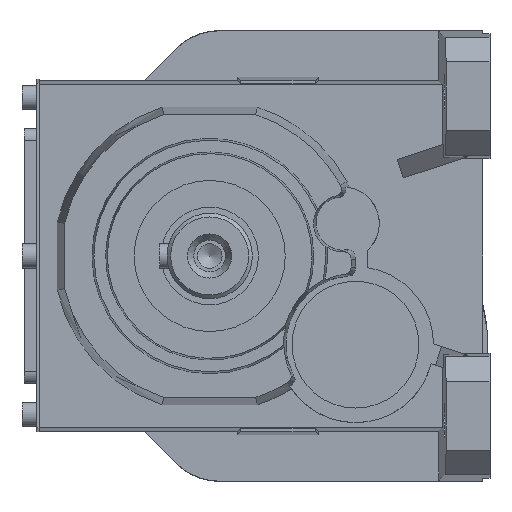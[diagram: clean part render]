
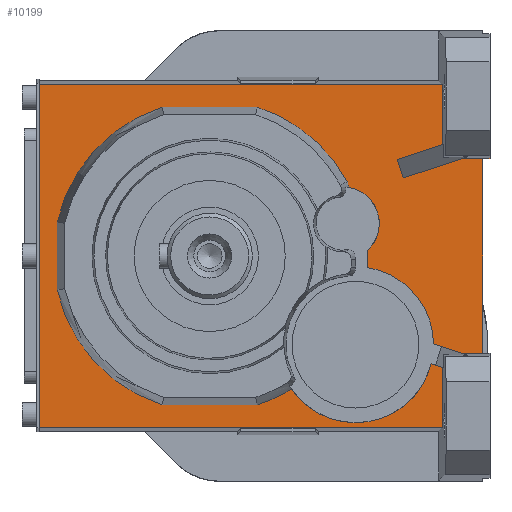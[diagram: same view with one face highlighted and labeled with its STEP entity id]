
A CAD part, left-side view. The second image highlights one B-rep face of the part: STEP entity #10199.
In plain terms, the highlighted planar face has unit normal (-1, 0, 0) as drawn and (1, 0, 0) by its records, which use the part's own axes.
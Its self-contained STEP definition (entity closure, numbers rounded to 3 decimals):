
#140=CIRCLE('',#10654,32.);
#141=CIRCLE('',#10656,32.);
#142=CIRCLE('',#10657,64.106);
#143=CIRCLE('',#10658,64.106);
#144=CIRCLE('',#10659,64.106);
#145=CIRCLE('',#10660,64.106);
#146=CIRCLE('',#10661,6.106);
#147=CIRCLE('',#10662,15.);
#413=LINE('',#13388,#1215);
#424=LINE('',#13410,#1226);
#429=LINE('',#13425,#1231);
#430=LINE('',#13431,#1232);
#431=LINE('',#13435,#1233);
#432=LINE('',#13439,#1234);
#433=LINE('',#13447,#1235);
#434=LINE('',#13448,#1236);
#435=LINE('',#13449,#1237);
#436=LINE('',#13451,#1238);
#437=LINE('',#13453,#1239);
#438=LINE('',#13455,#1240);
#439=LINE('',#13457,#1241);
#440=LINE('',#13459,#1242);
#441=LINE('',#13461,#1243);
#442=LINE('',#13463,#1244);
#443=LINE('',#13465,#1245);
#444=LINE('',#13467,#1246);
#445=LINE('',#13469,#1247);
#446=LINE('',#13471,#1248);
#447=LINE('',#13473,#1249);
#1215=VECTOR('',#11299,1000.);
#1226=VECTOR('',#11312,1000.);
#1231=VECTOR('',#11325,1000.);
#1232=VECTOR('',#11330,1000.);
#1233=VECTOR('',#11333,1000.);
#1234=VECTOR('',#11336,1000.);
#1235=VECTOR('',#11343,1000.);
#1236=VECTOR('',#11344,1000.);
#1237=VECTOR('',#11345,1000.);
#1238=VECTOR('',#11346,1000.);
#1239=VECTOR('',#11347,1000.);
#1240=VECTOR('',#11348,1000.);
#1241=VECTOR('',#11349,1000.);
#1242=VECTOR('',#11350,1000.);
#1243=VECTOR('',#11351,1000.);
#1244=VECTOR('',#11352,1000.);
#1245=VECTOR('',#11353,1000.);
#1246=VECTOR('',#11354,1000.);
#1247=VECTOR('',#11355,1000.);
#1248=VECTOR('',#11356,1000.);
#1249=VECTOR('',#11357,1000.);
#2037=ORIENTED_EDGE('',*,*,#4144,.F.);
#2038=ORIENTED_EDGE('',*,*,#4162,.F.);
#2039=ORIENTED_EDGE('',*,*,#4163,.T.);
#2040=ORIENTED_EDGE('',*,*,#4164,.F.);
#2041=ORIENTED_EDGE('',*,*,#4165,.T.);
#2042=ORIENTED_EDGE('',*,*,#4166,.F.);
#2043=ORIENTED_EDGE('',*,*,#4167,.T.);
#2044=ORIENTED_EDGE('',*,*,#4168,.F.);
#2045=ORIENTED_EDGE('',*,*,#4169,.T.);
#2046=ORIENTED_EDGE('',*,*,#4170,.F.);
#2047=ORIENTED_EDGE('',*,*,#4171,.F.);
#2048=ORIENTED_EDGE('',*,*,#4172,.T.);
#2049=ORIENTED_EDGE('',*,*,#4173,.T.);
#2050=ORIENTED_EDGE('',*,*,#4160,.T.);
#2051=ORIENTED_EDGE('',*,*,#4174,.T.);
#2052=ORIENTED_EDGE('',*,*,#4155,.T.);
#2053=ORIENTED_EDGE('',*,*,#4175,.T.);
#2054=ORIENTED_EDGE('',*,*,#4176,.F.);
#2055=ORIENTED_EDGE('',*,*,#4177,.T.);
#2056=ORIENTED_EDGE('',*,*,#4178,.F.);
#2057=ORIENTED_EDGE('',*,*,#4179,.T.);
#2058=ORIENTED_EDGE('',*,*,#4180,.F.);
#2059=ORIENTED_EDGE('',*,*,#4181,.F.);
#2060=ORIENTED_EDGE('',*,*,#4182,.F.);
#2061=ORIENTED_EDGE('',*,*,#4183,.T.);
#2062=ORIENTED_EDGE('',*,*,#4184,.F.);
#2063=ORIENTED_EDGE('',*,*,#4185,.T.);
#2064=ORIENTED_EDGE('',*,*,#4186,.F.);
#2065=ORIENTED_EDGE('',*,*,#4187,.F.);
#4144=EDGE_CURVE('',#5207,#5208,#413,.T.);
#4155=EDGE_CURVE('',#5218,#5217,#424,.T.);
#4160=EDGE_CURVE('',#5223,#5222,#140,.T.);
#4162=EDGE_CURVE('',#5224,#5207,#429,.T.);
#4163=EDGE_CURVE('',#5224,#5225,#141,.T.);
#4164=EDGE_CURVE('',#5226,#5225,#142,.T.);
#4165=EDGE_CURVE('',#5226,#5227,#430,.T.);
#4166=EDGE_CURVE('',#5228,#5227,#143,.T.);
#4167=EDGE_CURVE('',#5228,#5229,#431,.T.);
#4168=EDGE_CURVE('',#5230,#5229,#144,.T.);
#4169=EDGE_CURVE('',#5230,#5231,#432,.T.);
#4170=EDGE_CURVE('',#5232,#5231,#145,.T.);
#4171=EDGE_CURVE('',#5233,#5232,#146,.T.);
#4172=EDGE_CURVE('',#5233,#5234,#147,.T.);
#4173=EDGE_CURVE('',#5234,#5223,#433,.T.);
#4174=EDGE_CURVE('',#5222,#5218,#434,.T.);
#4175=EDGE_CURVE('',#5217,#5235,#435,.T.);
#4176=EDGE_CURVE('',#5236,#5235,#436,.T.);
#4177=EDGE_CURVE('',#5236,#5237,#437,.T.);
#4178=EDGE_CURVE('',#5238,#5237,#438,.T.);
#4179=EDGE_CURVE('',#5238,#5239,#439,.T.);
#4180=EDGE_CURVE('',#5240,#5239,#440,.T.);
#4181=EDGE_CURVE('',#5241,#5240,#441,.T.);
#4182=EDGE_CURVE('',#5242,#5241,#442,.T.);
#4183=EDGE_CURVE('',#5242,#5243,#443,.T.);
#4184=EDGE_CURVE('',#5244,#5243,#444,.T.);
#4185=EDGE_CURVE('',#5244,#5245,#445,.T.);
#4186=EDGE_CURVE('',#5246,#5245,#446,.T.);
#4187=EDGE_CURVE('',#5208,#5246,#447,.T.);
#5207=VERTEX_POINT('',#13387);
#5208=VERTEX_POINT('',#13389);
#5217=VERTEX_POINT('',#13409);
#5218=VERTEX_POINT('',#13411);
#5222=VERTEX_POINT('',#13420);
#5223=VERTEX_POINT('',#13422);
#5224=VERTEX_POINT('',#13426);
#5225=VERTEX_POINT('',#13428);
#5226=VERTEX_POINT('',#13430);
#5227=VERTEX_POINT('',#13432);
#5228=VERTEX_POINT('',#13434);
#5229=VERTEX_POINT('',#13436);
#5230=VERTEX_POINT('',#13438);
#5231=VERTEX_POINT('',#13440);
#5232=VERTEX_POINT('',#13442);
#5233=VERTEX_POINT('',#13444);
#5234=VERTEX_POINT('',#13446);
#5235=VERTEX_POINT('',#13450);
#5236=VERTEX_POINT('',#13452);
#5237=VERTEX_POINT('',#13454);
#5238=VERTEX_POINT('',#13456);
#5239=VERTEX_POINT('',#13458);
#5240=VERTEX_POINT('',#13460);
#5241=VERTEX_POINT('',#13462);
#5242=VERTEX_POINT('',#13464);
#5243=VERTEX_POINT('',#13466);
#5244=VERTEX_POINT('',#13468);
#5245=VERTEX_POINT('',#13470);
#5246=VERTEX_POINT('',#13472);
#5945=EDGE_LOOP('',(#2037,#2038,#2039,#2040,#2041,#2042,#2043,#2044,#2045,
#2046,#2047,#2048,#2049,#2050,#2051,#2052,#2053,#2054,#2055,#2056,#2057,
#2058,#2059,#2060,#2061,#2062,#2063,#2064,#2065));
#6484=FACE_BOUND('',#5945,.T.);
#7022=PLANE('',#10655);
#10199=ADVANCED_FACE('',(#6484),#7022,.F.);
#10654=AXIS2_PLACEMENT_3D('',#13421,#11320,#11321);
#10655=AXIS2_PLACEMENT_3D('',#13424,#11323,#11324);
#10656=AXIS2_PLACEMENT_3D('',#13427,#11326,#11327);
#10657=AXIS2_PLACEMENT_3D('',#13429,#11328,#11329);
#10658=AXIS2_PLACEMENT_3D('',#13433,#11331,#11332);
#10659=AXIS2_PLACEMENT_3D('',#13437,#11334,#11335);
#10660=AXIS2_PLACEMENT_3D('',#13441,#11337,#11338);
#10661=AXIS2_PLACEMENT_3D('',#13443,#11339,#11340);
#10662=AXIS2_PLACEMENT_3D('',#13445,#11341,#11342);
#11299=DIRECTION('',(0.,0.,1.));
#11312=DIRECTION('',(0.,-1.,0.));
#11320=DIRECTION('',(-1.,0.,0.));
#11321=DIRECTION('',(0.,0.,1.));
#11323=DIRECTION('',(-1.,0.,0.));
#11324=DIRECTION('',(0.,0.,1.));
#11325=DIRECTION('',(0.,-0.951,0.309));
#11326=DIRECTION('',(-1.,0.,0.));
#11327=DIRECTION('',(0.,0.,1.));
#11328=DIRECTION('',(1.,0.,0.));
#11329=DIRECTION('',(0.,0.,-1.));
#11330=DIRECTION('',(0.,1.,0.));
#11331=DIRECTION('',(1.,0.,0.));
#11332=DIRECTION('',(0.,0.,-1.));
#11333=DIRECTION('',(0.,0.,-1.));
#11334=DIRECTION('',(1.,0.,0.));
#11335=DIRECTION('',(0.,0.,-1.));
#11336=DIRECTION('',(0.,-1.,0.));
#11337=DIRECTION('',(1.,0.,0.));
#11338=DIRECTION('',(0.,0.,-1.));
#11339=DIRECTION('',(1.,0.,0.));
#11340=DIRECTION('',(0.,0.,-1.));
#11341=DIRECTION('',(-1.,0.,0.));
#11342=DIRECTION('',(0.,0.,1.));
#11343=DIRECTION('',(0.,0.,1.));
#11344=DIRECTION('',(0.,-0.951,0.309));
#11345=DIRECTION('',(0.,0.,-1.));
#11346=DIRECTION('',(0.,-1.,0.));
#11347=DIRECTION('',(0.,0.,-1.));
#11348=DIRECTION('',(0.,1.,0.));
#11349=DIRECTION('',(0.,0.,-1.));
#11350=DIRECTION('',(0.,-1.,0.));
#11351=DIRECTION('',(0.,-0.951,-0.309));
#11352=DIRECTION('',(0.,-0.309,0.951));
#11353=DIRECTION('',(0.,-0.951,-0.309));
#11354=DIRECTION('',(0.,0.,1.));
#11355=DIRECTION('',(0.,1.,0.));
#11356=DIRECTION('',(0.,0.,-1.));
#11357=DIRECTION('',(0.,1.,0.));
#13387=CARTESIAN_POINT('',(131.5,-95.481,45.69));
#13388=CARTESIAN_POINT('',(131.5,-95.481,95.));
#13389=CARTESIAN_POINT('',(131.5,-95.481,70.359));
#13409=CARTESIAN_POINT('',(131.5,-115.,40.));
#13410=CARTESIAN_POINT('',(131.5,-85.,40.));
#13411=CARTESIAN_POINT('',(131.5,-103.857,40.));
#13420=CARTESIAN_POINT('',(131.5,-91.809,36.085));
#13421=CARTESIAN_POINT('',(131.5,-59.81,36.37));
#13422=CARTESIAN_POINT('',(131.5,-64.71,4.747));
#13424=CARTESIAN_POINT('',(131.5,-85.,40.));
#13425=CARTESIAN_POINT('',(131.5,-85.414,42.419));
#13426=CARTESIAN_POINT('',(131.5,-90.842,44.183));
#13427=CARTESIAN_POINT('',(131.5,-59.81,36.37));
#13428=CARTESIAN_POINT('',(131.5,-33.535,54.635));
#13429=CARTESIAN_POINT('',(131.5,0.,0.));
#13430=CARTESIAN_POINT('',(131.5,-19.381,61.106));
#13431=CARTESIAN_POINT('',(131.5,0.,61.106));
#13432=CARTESIAN_POINT('',(131.5,19.381,61.106));
#13433=CARTESIAN_POINT('',(131.5,0.,0.));
#13434=CARTESIAN_POINT('',(131.5,62.606,13.786));
#13435=CARTESIAN_POINT('',(131.5,62.606,0.));
#13436=CARTESIAN_POINT('',(131.5,62.606,-13.786));
#13437=CARTESIAN_POINT('',(131.5,0.,0.));
#13438=CARTESIAN_POINT('',(131.5,19.381,-61.106));
#13439=CARTESIAN_POINT('',(131.5,0.,-61.106));
#13440=CARTESIAN_POINT('',(131.5,-19.381,-61.106));
#13441=CARTESIAN_POINT('',(131.5,0.,0.));
#13442=CARTESIAN_POINT('',(131.5,-56.388,-30.496));
#13443=CARTESIAN_POINT('',(131.5,-51.017,-27.591));
#13444=CARTESIAN_POINT('',(131.5,-57.098,-28.137));
#13445=CARTESIAN_POINT('',(131.5,-54.58,-13.35));
#13446=CARTESIAN_POINT('',(131.5,-64.71,-2.287));
#13447=CARTESIAN_POINT('',(131.5,-64.71,40.));
#13448=CARTESIAN_POINT('',(131.5,-87.887,34.811));
#13449=CARTESIAN_POINT('',(131.5,-115.,40.));
#13450=CARTESIAN_POINT('',(131.5,-115.,39.9));
#13451=CARTESIAN_POINT('',(131.5,-85.,39.9));
#13452=CARTESIAN_POINT('',(131.5,-112.,39.9));
#13453=CARTESIAN_POINT('',(131.5,-112.,40.));
#13454=CARTESIAN_POINT('',(131.5,-112.,-39.9));
#13455=CARTESIAN_POINT('',(131.5,-85.,-39.9));
#13456=CARTESIAN_POINT('',(131.5,-115.,-39.9));
#13457=CARTESIAN_POINT('',(131.5,-115.,40.));
#13458=CARTESIAN_POINT('',(131.5,-115.,-40.));
#13459=CARTESIAN_POINT('',(131.5,-85.,-40.));
#13460=CARTESIAN_POINT('',(131.5,-103.857,-40.));
#13461=CARTESIAN_POINT('',(131.5,-79.327,-32.03));
#13462=CARTESIAN_POINT('',(131.5,-79.327,-32.03));
#13463=CARTESIAN_POINT('',(131.5,-76.855,-39.638));
#13464=CARTESIAN_POINT('',(131.5,-76.855,-39.638));
#13465=CARTESIAN_POINT('',(131.5,-76.855,-39.638));
#13466=CARTESIAN_POINT('',(131.5,-95.481,-45.69));
#13467=CARTESIAN_POINT('',(131.5,-95.481,95.));
#13468=CARTESIAN_POINT('',(131.5,-95.481,-70.359));
#13469=CARTESIAN_POINT('',(131.5,-115.,-70.359));
#13470=CARTESIAN_POINT('',(131.5,70.,-70.359));
#13471=CARTESIAN_POINT('',(131.5,70.,70.359));
#13472=CARTESIAN_POINT('',(131.5,70.,70.359));
#13473=CARTESIAN_POINT('',(131.5,-115.,70.359));
